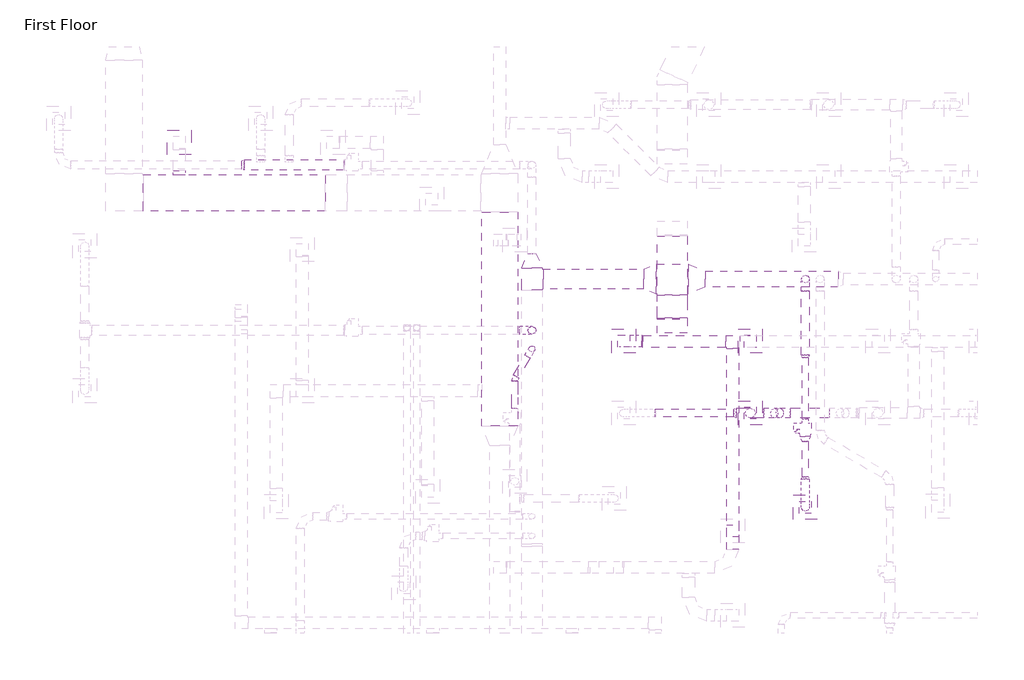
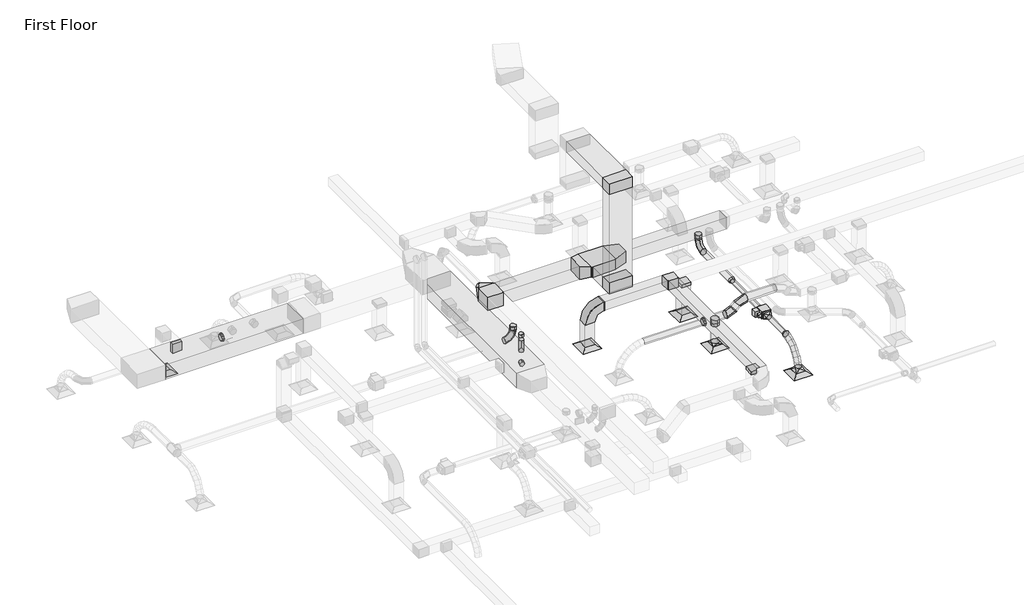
# One storey, part 12 of 61: 30 duct fittings, 26 duct segments, 5 air terminals, 1 proxy.
"""IFC4 building model written with IfcOpenShell, lengths in millimetres."""

from ifc_helpers import new_model, si_unit, point, frame, frame_2d, origin, place, context, project, spatial, polyline, circle_curve, ellipse_curve, trimmed, segment, composite_curve, outline, extrude, transform, mapped, element, save
from ifc_brep_helpers import plane_surface, cylinder_surface, advanced_brep
from components import m_exhaust_grill_er_600_x_600_face_300_x_300_connection_ff221211, m_vav_unit_single_duct_150_mm_ffdab17b, m_rectangular_elbow_mitered_standard_fe2310d5, m_rectangular_elbow_radius_1_5_w_86011e9f, m_rectangular_takeoff_standard_c00386d1, m_rectangular_takeoff_standard_ef79a8fe, m_rectangular_tee_standard_bf2a2b7f, m_rectangular_tee_standard_0196e6dc, m_rectangular_tee_standard_04ac002c, m_rectangular_transition_angle_45_degree_b56fc89d, m_rectangular_transition_angle_45_degree_8ae24dc3, m_rectangular_transition_angle_45_degree_11ff4bd1, m_rectangular_to_round_transition_angle_45_degree_c3b12eae, m_rectangular_to_round_transition_angle_45_degree_60daae35, m_rectangular_to_round_transition_angle_45_degree_5bab159d, m_rectangular_to_round_transition_angle_45_degree_52f8b7ed, m_round_elbow_1_5_d_2e586196, m_round_elbow_1_5_d_5294a869, m_round_elbow_1_5_d_6facac79, m_round_elbow_1_5_d_ef943c7d, m_round_elbow_1_5_d_36e34a82, m_round_takeoff_standard_d02f3bf7, m_round_takeoff_standard_45336e8a, m_round_takeoff_standard_37f376f6, m_round_takeoff_standard_c2403e64, m_round_transition_angle_45_degree_3fc7b733, m_round_transition_angle_45_degree_7939cf24, m_round_transition_angle_45_degree_68e10778

model = new_model("IFC4")

# Units and contexts
model_context = context("Model", 3, world=origin())
ifc_project = project(units=[si_unit("LENGTHUNIT", "METRE", prefix="MILLI")], contexts=[model_context])

# Site, building, storey
site = spatial("IfcSite", under=ifc_project)
building = spatial("IfcBuilding", under=site)
storey = spatial("IfcBuildingStorey", under=building, Name="First Floor", Elevation=0.0)

# Air terminals
placement = place(None, origin())
m_exhaust_grill_er_600_x_600_face_300_x_300_connection_shape = m_exhaust_grill_er_600_x_600_face_300_x_300_connection_ff221211(model_context)
element("IfcAirTerminal", 1, ObjectType="M_Return Register : RR-600 x 600 Face 300 x 300 Connection", at=placement, inside=storey, context=model_context, shape_type="MappedRepresentation", body=[
    mapped(m_exhaust_grill_er_600_x_600_face_300_x_300_connection_shape, transform((-33639.8506723, 21539.5631342, 2680.0), x_axis=(1.0, 0.0, 0.0), y_axis=(0.0, 1.0, 0.0), z_axis=(0.0, 0.0, 1.0))),
])
element("IfcAirTerminal", 2, ObjectType="M_Return Register : RR-600 x 600 Face 300 x 300 Connection", at=placement, inside=storey, context=model_context, shape_type="MappedRepresentation", body=[
    mapped(m_exhaust_grill_er_600_x_600_face_300_x_300_connection_shape, transform((-47834.1400676, 26481.8812417, 2680.0), x_axis=(1.0, 0.0, 0.0), y_axis=(0.0, 1.0, 0.0), z_axis=(0.0, 0.0, 1.0))),
])
element("IfcAirTerminal", 3, ObjectType="M_Return Register : RR-600 x 600 Face 300 x 300 Connection", at=placement, inside=storey, context=model_context, shape_type="MappedRepresentation", body=[
    mapped(m_exhaust_grill_er_600_x_600_face_300_x_300_connection_shape, transform((-36787.6727054, 21539.5631342, 2680.0), x_axis=(1.0, 0.0, 0.0), y_axis=(0.0, 1.0, 0.0), z_axis=(0.0, 0.0, 1.0))),
])
element("IfcAirTerminal", 4, ObjectType="M_Supply Diffuser : SD-600 x 600 Face 300 x 300 Connection", at=placement, inside=storey, context=model_context, shape_type="MappedRepresentation", body=[
    mapped(m_exhaust_grill_er_600_x_600_face_300_x_300_connection_shape, transform((-33639.8506723, 19747.3013059, 2680.0), x_axis=(1.0, 0.0, 0.0), y_axis=(0.0, 1.0, 0.0), z_axis=(0.0, 0.0, 1.0))),
])
element("IfcAirTerminal", 5, ObjectType="M_Supply Diffuser : SD-600 x 600 Face 300 x 300 Connection", at=placement, inside=storey, context=model_context, shape_type="MappedRepresentation", body=[
    mapped(m_exhaust_grill_er_600_x_600_face_300_x_300_connection_shape, transform((-32268.9643314, 17405.7329769, 2680.0), x_axis=(1.0, 0.0, 0.0), y_axis=(0.0, 1.0, 0.0), z_axis=(0.0, 0.0, 1.0))),
])

# Proxy
m_vav_unit_single_duct_150_mm_shape = m_vav_unit_single_duct_150_mm_ffdab17b(model_context)
element("IfcBuildingElementProxy", 6, Name="M_VAV Unit - Single Duct : 150 mm", ObjectType="M_VAV Unit - Single Duct : 150 mm", at=placement, inside=storey, context=model_context, shape_type="MappedRepresentation", body=[
    mapped(m_vav_unit_single_duct_150_mm_shape, transform((-32268.9643314, 19505.7329769, 3500.0), x_axis=(0.0, -1.0, 0.0), y_axis=(1.0, 0.0, 0.0), z_axis=(0.0, 0.0, 1.0))),
])

# Duct fittings
m_rectangular_elbow_mitered_standard_shape = m_rectangular_elbow_mitered_standard_fe2310d5(model_context)
element("IfcDuctFitting", 7, ObjectType="M_Rectangular Elbow - Mitered : Standard", at=placement, inside=storey, context=model_context, shape_type="MappedRepresentation", body=[
    mapped(m_rectangular_elbow_mitered_standard_shape, transform((-35582.8559727, 21911.6851869, 7719.5), x_axis=(0.0, -1.0, 0.0), y_axis=(0.0, 0.0, -1.0), z_axis=(1.0, 0.0, 0.0))),
])
element("IfcDuctFitting", 8, ObjectType="M_Rectangular Elbow - Mitered : Standard", at=placement, inside=storey, context=model_context, shape_type="MappedRepresentation", body=[
    mapped(m_rectangular_elbow_mitered_standard_shape, transform((-35582.8559727, 21911.6851869, 4259.5), x_axis=(0.0, 0.0, -1.0), y_axis=(0.0, 1.0, 0.0), z_axis=(1.0, 0.0, 0.0))),
])
m_rectangular_elbow_radius_1_5_w_shape = m_rectangular_elbow_radius_1_5_w_86011e9f(model_context)
element("IfcDuctFitting", 9, ObjectType="M_Rectangular Elbow - Radius : 1.5 W", at=placement, inside=storey, context=model_context, shape_type="MappedRepresentation", body=[
    mapped(m_rectangular_elbow_radius_1_5_w_shape, transform((-36787.6727054, 21539.5631342, 4000.0), x_axis=(0.0, 0.0, 1.0), y_axis=(1.0, 0.0, 0.0), z_axis=(0.0, 1.0, 0.0))),
])
m_rectangular_takeoff_standard_shape = m_rectangular_takeoff_standard_c00386d1(model_context)
element("IfcDuctFitting", 10, ObjectType="M_Rectangular Takeoff : Standard", at=placement, inside=storey, context=model_context, shape_type="MappedRepresentation", body=[
    mapped(m_rectangular_takeoff_standard_shape, transform((-34075.733002, 16812.4492601, 3850.0), x_axis=(0.0, 0.0, -1.0), y_axis=(-1.0, 0.0, 0.0), z_axis=(0.0, 1.0, 0.0))),
])
element("IfcDuctFitting", 11, ObjectType="M_Rectangular Takeoff : Standard", at=placement, inside=storey, context=model_context, shape_type="MappedRepresentation", body=[
    mapped(m_rectangular_takeoff_standard_shape, transform((-47834.1400676, 25678.8199771, 4000.0), x_axis=(0.0, 1.0, 0.0), y_axis=(1.0, 0.0, 0.0), z_axis=(0.0, 0.0, -1.0))),
])
m_rectangular_takeoff_standard_2_shape = m_rectangular_takeoff_standard_ef79a8fe(model_context)
element("IfcDuctFitting", 12, ObjectType="M_Rectangular Takeoff : Standard", at=placement, inside=storey, context=model_context, shape_type="MappedRepresentation", body=[
    mapped(m_rectangular_takeoff_standard_2_shape, transform((-33639.8506723, 21526.3164283, 3850.0), x_axis=(0.0, 0.012397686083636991, -0.9999231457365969), y_axis=(0.0, 0.9999231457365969, 0.012397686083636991), z_axis=(1.0, 0.0, 0.0))),
])
m_rectangular_tee_standard_shape = m_rectangular_tee_standard_bf2a2b7f(model_context)
element("IfcDuctFitting", 13, ObjectType="M_Rectangular Tee : Standard", at=placement, inside=storey, context=model_context, shape_type="MappedRepresentation", body=[
    mapped(m_rectangular_tee_standard_shape, transform((-34075.733002, 21527.5562922, 4000.0), x_axis=(1.0, 0.0, 0.0), y_axis=(0.0, 1.0, 0.0), z_axis=(0.0, 0.0, 1.0))),
])
m_rectangular_tee_standard_2_shape = m_rectangular_tee_standard_0196e6dc(model_context)
element("IfcDuctFitting", 14, ObjectType="M_Rectangular Tee : Standard", at=placement, inside=storey, context=model_context, shape_type="MappedRepresentation", body=[
    mapped(m_rectangular_tee_standard_2_shape, transform((-35582.8559727, 23080.5096581, 4259.5), x_axis=(1.0, 0.0, 0.0), y_axis=(0.0, 1.0, 0.0), z_axis=(0.0, 0.0, 1.0))),
])
m_rectangular_tee_standard_3_shape = m_rectangular_tee_standard_04ac002c(model_context)
element("IfcDuctFitting", 15, ObjectType="M_Rectangular Tee : Standard", at=placement, inside=storey, context=model_context, shape_type="MappedRepresentation", body=[
    mapped(m_rectangular_tee_standard_3_shape, transform((-39067.4195561, 23080.5096581, 4259.5), x_axis=(0.0, 1.0, 0.0), y_axis=(-1.0, 0.0, 0.0), z_axis=(0.0, 0.0, 1.0))),
])
m_rectangular_transition_angle_45_degree_shape = m_rectangular_transition_angle_45_degree_b56fc89d(model_context)
element("IfcDuctFitting", 16, ObjectType="M_Rectangular Transition - Angle : 45 Degree", at=placement, inside=storey, context=model_context, shape_type="MappedRepresentation", body=[
    mapped(m_rectangular_transition_angle_45_degree_shape, transform((-34760.3685993, 23080.5096581, 4259.5), x_axis=(-1.0, 0.0, 0.0), y_axis=(0.0, -1.0, 0.0), z_axis=(0.0, 0.0, 1.0))),
])
m_rectangular_transition_angle_45_degree_2_shape = m_rectangular_transition_angle_45_degree_8ae24dc3(model_context)
element("IfcDuctFitting", 17, ObjectType="M_Rectangular Transition - Angle : 45 Degree", at=placement, inside=storey, context=model_context, shape_type="MappedRepresentation", body=[
    mapped(m_rectangular_transition_angle_45_degree_2_shape, transform((-35982.8559727, 23080.5096581, 4259.5), x_axis=(-1.0, 0.0, 0.0), y_axis=(0.0, -1.0, 0.0), z_axis=(0.0, 0.0, 1.0))),
])
m_rectangular_transition_angle_45_degree_3_shape = m_rectangular_transition_angle_45_degree_11ff4bd1(model_context)
element("IfcDuctFitting", 18, ObjectType="M_Rectangular Transition - Angle : 45 Degree", at=placement, inside=storey, context=model_context, shape_type="MappedRepresentation", body=[
    mapped(m_rectangular_transition_angle_45_degree_3_shape, transform((-36337.6727054, 21539.5631342, 4000.0), x_axis=(1.0, 0.0, 0.0), y_axis=(0.0, 1.0, 0.0), z_axis=(0.0, 0.0, 1.0))),
])
m_rectangular_to_round_transition_angle_45_degree_shape = m_rectangular_to_round_transition_angle_45_degree_c3b12eae(model_context)
element("IfcDuctFitting", 19, ObjectType="M_Rectangular to Round Transition - Angle : 45 Degree", at=placement, inside=storey, context=model_context, shape_type="MappedRepresentation", body=[
    mapped(m_rectangular_to_round_transition_angle_45_degree_shape, transform((-32268.9643314, 19162.9329769, 3619.05), x_axis=(0.0, -1.0, 0.0), y_axis=(1.0, 0.0, 0.0), z_axis=(0.0, 0.0, 1.0))),
])
m_rectangular_to_round_transition_angle_45_degree_2_shape = m_rectangular_to_round_transition_angle_45_degree_60daae35(model_context)
element("IfcDuctFitting", 20, ObjectType="M_Rectangular to Round Transition - Angle : 45 Degree", at=placement, inside=storey, context=model_context, shape_type="MappedRepresentation", body=[
    mapped(m_rectangular_to_round_transition_angle_45_degree_2_shape, transform((-32268.9643314, 17405.7329769, 2781.6), x_axis=(0.0, 0.0, 1.0), y_axis=(1.0, 0.0, 0.0), z_axis=(0.0, 1.0, 0.0))),
])
m_rectangular_to_round_transition_angle_45_degree_3_shape = m_rectangular_to_round_transition_angle_45_degree_5bab159d(model_context)
element("IfcDuctFitting", 21, ObjectType="M_Rectangular to Round Transition - Angle : 45 Degree", at=placement, inside=storey, context=model_context, shape_type="MappedRepresentation", body=[
    mapped(m_rectangular_to_round_transition_angle_45_degree_3_shape, transform((-33639.8506723, 19747.3013059, 2781.6), x_axis=(0.0, 0.0, 1.0), y_axis=(0.0, 1.0, 0.0), z_axis=(-1.0, 0.0, 0.0))),
])
m_rectangular_to_round_transition_angle_45_degree_4_shape = m_rectangular_to_round_transition_angle_45_degree_52f8b7ed(model_context)
element("IfcDuctFitting", 22, ObjectType="M_Rectangular to Round Transition - Angle : 45 Degree", at=placement, inside=storey, context=model_context, shape_type="MappedRepresentation", body=[
    mapped(m_rectangular_to_round_transition_angle_45_degree_4_shape, transform((-39067.4195561, 23355.5096581, 4259.5), x_axis=(0.0, 1.0, 0.0), y_axis=(-1.0, 0.0, 0.0), z_axis=(0.0, 0.0, 1.0))),
])
m_round_elbow_1_5_d_shape = m_round_elbow_1_5_d_2e586196(model_context)
element("IfcDuctFitting", 23, ObjectType="M_Round Elbow : 1.5 D", at=placement, inside=storey, context=model_context, shape_type="MappedRepresentation", body=[
    mapped(m_round_elbow_1_5_d_shape, transform((-39067.4195561, 21347.2850588, 3609.5), x_axis=(0.0, 0.0, -1.0), y_axis=(-0.5000000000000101, -0.8660254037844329, 0.0), z_axis=(-0.8660254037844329, 0.5000000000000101, 0.0))),
])
m_round_elbow_1_5_d_2_shape = m_round_elbow_1_5_d_5294a869(model_context)
element("IfcDuctFitting", 24, ObjectType="M_Round Elbow : 1.5 D", at=placement, inside=storey, context=model_context, shape_type="MappedRepresentation", body=[
    mapped(m_round_elbow_1_5_d_2_shape, transform((-39494.3797098, 20607.7683799, 3609.5), x_axis=(-0.5000000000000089, -0.8660254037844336, 0.0), y_axis=(0.8660254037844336, -0.5000000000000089, 0.0), z_axis=(0.0, 0.0, 1.0))),
])
m_round_elbow_1_5_d_3_shape = m_round_elbow_1_5_d_6facac79(model_context)
element("IfcDuctFitting", 25, ObjectType="M_Round Elbow : 1.5 D", at=placement, inside=storey, context=model_context, shape_type="MappedRepresentation", body=[
    mapped(m_round_elbow_1_5_d_3_shape, transform((-32798.1711139, 19747.3013059, 3997.6533906), x_axis=(-1.0, 0.0, 0.0), y_axis=(0.0, 0.0, -1.0), z_axis=(0.0, -1.0, 0.0))),
])
element("IfcDuctFitting", 26, ObjectType="M_Round Elbow : 1.5 D", at=placement, inside=storey, context=model_context, shape_type="MappedRepresentation", body=[
    mapped(m_round_elbow_1_5_d_3_shape, transform((-33151.7245045, 19747.3013059, 3644.1), x_axis=(-0.7071067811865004, 0.0, -0.7071067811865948), y_axis=(-0.7071067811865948, 0.0, 0.7071067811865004), z_axis=(0.0, 1.0, 0.0))),
])
m_round_elbow_1_5_d_4_shape = m_round_elbow_1_5_d_ef943c7d(model_context)
element("IfcDuctFitting", 27, ObjectType="M_Round Elbow : 1.5 D", at=placement, inside=storey, context=model_context, shape_type="MappedRepresentation", body=[
    mapped(m_round_elbow_1_5_d_4_shape, transform((-32268.1143314, 23080.5096581, 3609.5003064), x_axis=(0.0, 0.0, -1.0), y_axis=(0.0, -1.0, 0.0), z_axis=(-1.0, 0.0, 0.0))),
])
m_round_elbow_1_5_d_5_shape = m_round_elbow_1_5_d_36e34a82(model_context)
element("IfcDuctFitting", 28, ObjectType="M_Round Elbow : 1.5 D", at=placement, inside=storey, context=model_context, shape_type="MappedRepresentation", body=[
    mapped(m_round_elbow_1_5_d_5_shape, transform((-39066.9981017, 21807.7683799, 3609.5), x_axis=(1.0, 0.0, 0.0), y_axis=(0.0, 0.0, 1.0), z_axis=(0.0, -1.0, 0.0))),
])
m_round_takeoff_standard_shape = m_round_takeoff_standard_d02f3bf7(model_context)
element("IfcDuctFitting", 29, ObjectType="M_Round Takeoff : Standard", at=placement, inside=storey, context=model_context, shape_type="MappedRepresentation", body=[
    mapped(m_round_takeoff_standard_shape, transform((-39067.4195561, 21347.2850588, 4034.5), x_axis=(0.0, 0.0, -1.0), y_axis=(1.0, 0.0, 0.0), z_axis=(0.0, -1.0, 0.0))),
])
m_round_takeoff_standard_2_shape = m_round_takeoff_standard_45336e8a(model_context)
element("IfcDuctFitting", 30, ObjectType="M_Round Takeoff : Standard", at=placement, inside=storey, context=model_context, shape_type="MappedRepresentation", body=[
    mapped(m_round_takeoff_standard_2_shape, transform((-32268.1143314, 23080.5096581, 4059.5), x_axis=(0.0, 0.0, -1.0), y_axis=(1.0, 0.0, 0.0), z_axis=(0.0, -1.0, 0.0))),
])
m_round_takeoff_standard_3_shape = m_round_takeoff_standard_37f376f6(model_context)
element("IfcDuctFitting", 31, ObjectType="M_Round Takeoff : Standard", at=placement, inside=storey, context=model_context, shape_type="MappedRepresentation", body=[
    mapped(m_round_takeoff_standard_3_shape, transform((-33639.8506723, 19747.3013059, 3519.1), x_axis=(0.0, 0.0, -1.0), y_axis=(0.0, -1.0, 0.0), z_axis=(-1.0, 0.0, 0.0))),
])
m_round_takeoff_standard_4_shape = m_round_takeoff_standard_c2403e64(model_context)
element("IfcDuctFitting", 32, ObjectType="M_Round Takeoff : Standard", at=placement, inside=storey, context=model_context, shape_type="MappedRepresentation", body=[
    mapped(m_round_takeoff_standard_4_shape, transform((-39067.273668, 21807.7683799, 4034.5), x_axis=(0.0006483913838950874, 0.0, -0.9999997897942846), y_axis=(0.0, 1.0, 0.0), z_axis=(0.9999997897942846, 0.0, 0.000648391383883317))),
])
m_round_transition_angle_45_degree_shape = m_round_transition_angle_45_degree_3fc7b733(model_context)
element("IfcDuctFitting", 33, ObjectType="M_Round Transition - Angle : 45 Degree", at=placement, inside=storey, context=model_context, shape_type="MappedRepresentation", body=[
    mapped(m_round_transition_angle_45_degree_shape, transform((-32268.9643314, 18162.9329769, 3609.5), x_axis=(0.0, -0.9999410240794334, -0.01086040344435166), y_axis=(1.0000000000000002, 0.0, 0.0), z_axis=(0.0, -0.01086040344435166, 0.9999410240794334))),
])
m_round_transition_angle_45_degree_2_shape = m_round_transition_angle_45_degree_7939cf24(model_context)
element("IfcDuctFitting", 34, ObjectType="M_Round Transition - Angle : 45 Degree", at=placement, inside=storey, context=model_context, shape_type="MappedRepresentation", body=[
    mapped(m_round_transition_angle_45_degree_2_shape, transform((-46221.7384067, 25922.5121835, 3644.1), x_axis=(-1.0, 0.0, 0.0), y_axis=(0.0, -1.0, 0.0), z_axis=(0.0, 0.0, 1.0))),
])
element("IfcDuctFitting", 35, ObjectType="M_Round Transition - Angle : 45 Degree", at=placement, inside=storey, context=model_context, shape_type="MappedRepresentation", body=[
    mapped(m_round_transition_angle_45_degree_2_shape, transform((-33994.4400538, 19747.3013059, 3644.1), x_axis=(-1.0, 0.0, 0.0), y_axis=(0.0, -1.0, 0.0), z_axis=(0.0, 0.0, 1.0))),
])
m_round_transition_angle_45_degree_3_shape = m_round_transition_angle_45_degree_68e10778(model_context)
element("IfcDuctFitting", 36, ObjectType="M_Round Transition - Angle : 45 Degree", at=placement, inside=storey, context=model_context, shape_type="MappedRepresentation", body=[
    mapped(m_round_transition_angle_45_degree_3_shape, transform((-32268.1143314, 21127.3329769, 3609.5), x_axis=(0.0, 0.9999999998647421, -1.644736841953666e-05), y_axis=(-1.0, 0.0, 0.0), z_axis=(0.0, 1.644736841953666e-05, 0.9999999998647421))),
])

# Duct segments
element("IfcDuctSegment", 37, ObjectType="Flex - Round", at=placement, inside=storey, context=model_context, shape_type="AdvancedBrep", body=[
    advanced_brep(
    [(-32168.9643314, 18102.5811974, 3608.8445167), (-32268.9643314, 18118.4271261, 3510.1079655), (-32368.9643314, 18102.5811974, 3608.8445167), (-32268.9643314, 18086.7352686, 3707.5810679), (-32168.9643314, 17959.8315326, 3585.9350572), (-32268.9643314, 17988.1271349, 3489.1965163), (-32368.9643314, 17959.8315326, 3585.9350572), (-32268.9643314, 17931.5359303, 3682.6735982), (-32168.9643314, 17405.7329769, 2902.3106781), (-32268.9643314, 17306.8168669, 2916.9941102), (-32368.9643314, 17405.7329769, 2902.3106781), (-32268.9643314, 17504.649087, 2887.627246), (-32168.9643314, 17819.7794979, 3525.0664323), (-32268.9643314, 17868.9763607, 3437.4118792), (-32368.9643314, 17819.7794979, 3525.0664323), (-32268.9643314, 17770.5826352, 3612.7209854), (-32168.9643314, 17689.4464991, 3433.409352), (-32268.9643314, 17754.3464519, 3356.798045), (-32368.9643314, 17689.4464991, 3433.409352), (-32268.9643314, 17624.5465462, 3510.0206589), (-32168.9643314, 17575.8539418, 3318.1345263), (-32268.9643314, 17653.399715, 3254.3563202), (-32368.9643314, 17575.8539418, 3318.1345263), (-32268.9643314, 17498.3081685, 3381.9127324), (-32168.9643314, 17486.0232318, 3186.4126654), (-32268.9643314, 17574.3481133, 3138.4402365), (-32368.9643314, 17486.0232318, 3186.4126654), (-32268.9643314, 17397.6983503, 3234.3850942), (-32168.9643314, 17426.9757749, 3045.4144793), (-32268.9643314, 17524.0526174, 3018.340675), (-32368.9643314, 17426.9757749, 3045.4144793), (-32268.9643314, 17329.8989324, 3072.4882836)],
    [
        (0, 1, circle_curve(frame((-32268.9643314, 18102.5811974, 3608.8445167), z_axis=(0.0, 0.9873655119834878, 0.1584592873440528), x_axis=(1.0, 0.0, 0.0)), 100.0)),
        (1, 2, circle_curve(frame((-32268.9643314, 18102.5811974, 3608.8445167), z_axis=(0.0, 0.9873655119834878, 0.1584592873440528), x_axis=(1.0, 0.0, 0.0)), 100.0)),
        (2, 3, circle_curve(frame((-32268.9643314, 18102.5811974, 3608.8445167), z_axis=(0.0, 0.9873655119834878, 0.1584592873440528), x_axis=(1.0, 0.0, 0.0)), 100.0)),
        (3, 0, circle_curve(frame((-32268.9643314, 18102.5811974, 3608.8445167), z_axis=(0.0, 0.9873655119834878, 0.1584592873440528), x_axis=(1.0, 0.0, 0.0)), 100.0)),
        (0, 4),
        (4, 5, ellipse_curve(frame((-32268.9643314, 17959.8315326, 3585.9350572), z_axis=(0.0, 0.9597858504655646, 0.2807331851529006), x_axis=(0.0, 0.28073318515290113, -0.9597858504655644)), 100.7917974, 100.0)),
        (5, 1),
        (5, 6, ellipse_curve(frame((-32268.9643314, 17959.8315326, 3585.9350572), z_axis=(0.0, 0.9597858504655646, 0.2807331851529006), x_axis=(0.0, 0.28073318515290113, -0.9597858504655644)), 100.7917974, 100.0)),
        (6, 2),
        (6, 7, ellipse_curve(frame((-32268.9643314, 17959.8315326, 3585.9350572), z_axis=(0.0, 0.9597858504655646, 0.2807331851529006), x_axis=(0.0, 0.28073318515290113, -0.9597858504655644)), 100.7917974, 100.0)),
        (7, 3),
        (7, 4, ellipse_curve(frame((-32268.9643314, 17959.8315326, 3585.9350572), z_axis=(0.0, 0.9597858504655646, 0.2807331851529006), x_axis=(0.0, 0.28073318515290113, -0.9597858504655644)), 100.7917974, 100.0)),
        (8, 9, circle_curve(frame((-32268.9643314, 17405.7329769, 2902.3106781), z_axis=(0.0, -0.14683432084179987, -0.9891611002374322), x_axis=(1.0, 0.0, 0.0)), 100.0)),
        (9, 10, circle_curve(frame((-32268.9643314, 17405.7329769, 2902.3106781), z_axis=(0.0, -0.14683432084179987, -0.9891611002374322), x_axis=(1.0, 0.0, 0.0)), 100.0)),
        (10, 11, circle_curve(frame((-32268.9643314, 17405.7329769, 2902.3106781), z_axis=(0.0, -0.14683432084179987, -0.9891611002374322), x_axis=(1.0, 0.0, 0.0)), 100.0)),
        (11, 8, circle_curve(frame((-32268.9643314, 17405.7329769, 2902.3106781), z_axis=(0.0, -0.14683432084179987, -0.9891611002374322), x_axis=(1.0, 0.0, 0.0)), 100.0)),
        (4, 12),
        (12, 13, ellipse_curve(frame((-32268.9643314, 17819.7794979, 3525.0664323), z_axis=(0.0, 0.8720377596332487, 0.4894386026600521), x_axis=(0.0, 0.48943860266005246, -0.8720377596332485)), 100.5169239, 100.0)),
        (13, 5),
        (13, 14, ellipse_curve(frame((-32268.9643314, 17819.7794979, 3525.0664323), z_axis=(0.0, 0.8720377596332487, 0.4894386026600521), x_axis=(0.0, 0.48943860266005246, -0.8720377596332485)), 100.5169239, 100.0)),
        (14, 6),
        (14, 15, ellipse_curve(frame((-32268.9643314, 17819.7794979, 3525.0664323), z_axis=(0.0, 0.8720377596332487, 0.4894386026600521), x_axis=(0.0, 0.48943860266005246, -0.8720377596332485)), 100.5169239, 100.0)),
        (15, 7),
        (15, 12, ellipse_curve(frame((-32268.9643314, 17819.7794979, 3525.0664323), z_axis=(0.0, 0.8720377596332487, 0.4894386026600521), x_axis=(0.0, 0.48943860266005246, -0.8720377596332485)), 100.5169239, 100.0)),
        (12, 16),
        (16, 17, ellipse_curve(frame((-32268.9643314, 17689.4464991, 3433.409352), z_axis=(0.0, 0.7630178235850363, 0.6463774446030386), x_axis=(0.0, 0.6463774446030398, -0.7630178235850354)), 100.4056584, 100.0)),
        (17, 13),
        (17, 18, ellipse_curve(frame((-32268.9643314, 17689.4464991, 3433.409352), z_axis=(0.0, 0.7630178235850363, 0.6463774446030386), x_axis=(0.0, 0.6463774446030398, -0.7630178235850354)), 100.4056584, 100.0)),
        (18, 14),
        (18, 19, ellipse_curve(frame((-32268.9643314, 17689.4464991, 3433.409352), z_axis=(0.0, 0.7630178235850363, 0.6463774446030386), x_axis=(0.0, 0.6463774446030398, -0.7630178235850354)), 100.4056584, 100.0)),
        (19, 15),
        (19, 16, ellipse_curve(frame((-32268.9643314, 17689.4464991, 3433.409352), z_axis=(0.0, 0.7630178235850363, 0.6463774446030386), x_axis=(0.0, 0.6463774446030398, -0.7630178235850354)), 100.4056584, 100.0)),
        (16, 20),
        (20, 21, ellipse_curve(frame((-32268.9643314, 17575.8539418, 3318.1345263), z_axis=(0.0, 0.635214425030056, 0.7723358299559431), x_axis=(0.0, 0.7723358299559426, -0.6352144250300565)), 100.4042157, 100.0)),
        (21, 17),
        (21, 22, ellipse_curve(frame((-32268.9643314, 17575.8539418, 3318.1345263), z_axis=(0.0, 0.635214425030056, 0.7723358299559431), x_axis=(0.0, 0.7723358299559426, -0.6352144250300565)), 100.4042157, 100.0)),
        (22, 18),
        (22, 23, ellipse_curve(frame((-32268.9643314, 17575.8539418, 3318.1345263), z_axis=(0.0, 0.635214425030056, 0.7723358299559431), x_axis=(0.0, 0.7723358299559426, -0.6352144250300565)), 100.4042157, 100.0)),
        (23, 19),
        (23, 20, ellipse_curve(frame((-32268.9643314, 17575.8539418, 3318.1345263), z_axis=(0.0, 0.635214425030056, 0.7723358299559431), x_axis=(0.0, 0.7723358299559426, -0.6352144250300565)), 100.4042157, 100.0)),
        (20, 24),
        (24, 25, ellipse_curve(frame((-32268.9643314, 17486.0232318, 3186.4126654), z_axis=(0.0, 0.47728116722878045, 0.8787506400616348), x_axis=(0.0, 0.878750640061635, -0.4772811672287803)), 100.511883, 100.0)),
        (25, 21),
        (25, 26, ellipse_curve(frame((-32268.9643314, 17486.0232318, 3186.4126654), z_axis=(0.0, 0.47728116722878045, 0.8787506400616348), x_axis=(0.0, 0.878750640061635, -0.4772811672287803)), 100.511883, 100.0)),
        (26, 22),
        (26, 27, ellipse_curve(frame((-32268.9643314, 17486.0232318, 3186.4126654), z_axis=(0.0, 0.47728116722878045, 0.8787506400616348), x_axis=(0.0, 0.878750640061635, -0.4772811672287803)), 100.511883, 100.0)),
        (27, 23),
        (27, 24, ellipse_curve(frame((-32268.9643314, 17486.0232318, 3186.4126654), z_axis=(0.0, 0.47728116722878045, 0.8787506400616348), x_axis=(0.0, 0.878750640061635, -0.4772811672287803)), 100.511883, 100.0)),
        (24, 28),
        (28, 29, ellipse_curve(frame((-32268.9643314, 17426.9757749, 3045.4144793), z_axis=(0.0, 0.2686387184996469, 0.9632410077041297), x_axis=(0.0, 0.9632410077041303, -0.268638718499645)), 100.7814677, 100.0)),
        (29, 25),
        (29, 30, ellipse_curve(frame((-32268.9643314, 17426.9757749, 3045.4144793), z_axis=(0.0, 0.2686387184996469, 0.9632410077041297), x_axis=(0.0, 0.9632410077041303, -0.268638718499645)), 100.7814677, 100.0)),
        (30, 26),
        (30, 31, ellipse_curve(frame((-32268.9643314, 17426.9757749, 3045.4144793), z_axis=(0.0, 0.2686387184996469, 0.9632410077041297), x_axis=(0.0, 0.9632410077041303, -0.268638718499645)), 100.7814677, 100.0)),
        (31, 27),
        (31, 28, ellipse_curve(frame((-32268.9643314, 17426.9757749, 3045.4144793), z_axis=(0.0, 0.2686387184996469, 0.9632410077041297), x_axis=(0.0, 0.9632410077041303, -0.268638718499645)), 100.7814677, 100.0)),
        (28, 8),
        (11, 29),
        (10, 30),
        (9, 31),
    ],
    [
        plane_surface(frame((-32268.9643314, 18118.4271261, 3510.1079655), z_axis=(0.0, 0.9873655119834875, 0.15845928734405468), x_axis=(1.0, 0.0, 0.0))),
        cylinder_surface(frame((-32268.9643314, 18102.5811974, 3608.8445167), z_axis=(0.0, 0.9873655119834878, 0.1584592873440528), x_axis=(1.0, 0.0, 0.0)), 100.0),
        plane_surface(frame((-32268.9643314, 17504.649087, 2887.627246), z_axis=(0.0, -0.14683432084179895, -0.9891611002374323), x_axis=(1.0, 0.0, 0.0))),
        cylinder_surface(frame((-32268.9643314, 17959.8315326, 3585.9350572), z_axis=(0.0, 0.9171264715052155, 0.3985963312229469), x_axis=(1.0, 0.0, 0.0)), 100.0),
        cylinder_surface(frame((-32268.9643314, 17819.7794979, 3525.0664323), z_axis=(0.0, 0.8179798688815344, 0.5752468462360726), x_axis=(1.0, 0.0, 0.0)), 100.0),
        cylinder_surface(frame((-32268.9643314, 17689.4464991, 3433.409352), z_axis=(0.0, 0.7018902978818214, 0.7122850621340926), x_axis=(1.0, 0.0, 0.0)), 100.0),
        cylinder_surface(frame((-32268.9643314, 17575.8539418, 3318.1345263), z_axis=(0.0, 0.5634239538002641, 0.8261679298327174), x_axis=(1.0, 0.0, 0.0)), 100.0),
        cylinder_surface(frame((-32268.9643314, 17486.0232318, 3186.4126654), z_axis=(0.0, 0.3862770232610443, 0.9223828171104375), x_axis=(1.0, 0.0, 0.0)), 100.0),
        cylinder_surface(frame((-32268.9643314, 17426.9757749, 3045.4144793), z_axis=(0.0, 0.14683432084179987, 0.9891611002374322), x_axis=(1.0, 0.0, 0.0)), 100.0),
    ],
    [
        (0, [[1, 2, 3, 4]]),
        (1, [[-1, 5, 6, 7]]),
        (1, [[-2, -7, 8, 9]]),
        (1, [[-3, -9, 10, 11]]),
        (1, [[-4, -11, 12, -5]]),
        (2, [[13, 14, 15, 16]]),
        (3, [[-6, 17, 18, 19]]),
        (3, [[-8, -19, 20, 21]]),
        (3, [[-10, -21, 22, 23]]),
        (3, [[-12, -23, 24, -17]]),
        (4, [[-18, 25, 26, 27]]),
        (4, [[-20, -27, 28, 29]]),
        (4, [[-22, -29, 30, 31]]),
        (4, [[-24, -31, 32, -25]]),
        (5, [[-26, 33, 34, 35]]),
        (5, [[-28, -35, 36, 37]]),
        (5, [[-30, -37, 38, 39]]),
        (5, [[-32, -39, 40, -33]]),
        (6, [[-34, 41, 42, 43]]),
        (6, [[-36, -43, 44, 45]]),
        (6, [[-38, -45, 46, 47]]),
        (6, [[-40, -47, 48, -41]]),
        (7, [[-42, 49, 50, 51]]),
        (7, [[-44, -51, 52, 53]]),
        (7, [[-46, -53, 54, 55]]),
        (7, [[-48, -55, 56, -49]]),
        (8, [[-50, 57, -16, 58]]),
        (8, [[-52, -58, -15, 59]]),
        (8, [[-54, -59, -14, 60]]),
        (8, [[-56, -60, -13, -57]]),
    ],
),
])
element("IfcDuctSegment", 38, ObjectType="Mitered Elbows / Taps", at=placement, inside=storey, context=model_context, shape_type="SweptSolid", body=[
    extrude(outline(polyline([(-35957.8559727, 24146.9475748), (-35207.8559727, 24146.9475748), (-35207.8559727, 22111.6851869), (-35957.8559727, 22111.6851869), (-35957.8559727, 24146.9475748)])), frame((0.0, 0.0, 7544.5), z_axis=(0.0, 0.0, 1.0), x_axis=(1.0, 0.0, 0.0)), (0.0, 0.0, 1.0), 350.0),
])
element("IfcDuctSegment", 39, ObjectType="Mitered Elbows / Taps", at=placement, inside=storey, context=model_context, shape_type="SweptSolid", body=[
    extrude(outline(polyline([(-35957.8559727, 21736.6851869), (-35957.8559727, 22086.6851869), (-35207.8559727, 22086.6851869), (-35207.8559727, 21736.6851869), (-35957.8559727, 21736.6851869)])), frame((0.0, 0.0, 4459.5), z_axis=(0.0, 0.0, 1.0), x_axis=(1.0, 0.0, 0.0)), (0.0, 0.0, 1.0), 3060.0),
])
element("IfcDuctSegment", 40, ObjectType="Mitered Elbows / Taps", at=placement, inside=storey, context=model_context, shape_type="SweptSolid", body=[
    extrude(outline(polyline([(-35207.8559727, 22111.6851869), (-35957.8559727, 22111.6851869), (-35957.8559727, 22680.5096581), (-35207.8559727, 22680.5096581), (-35207.8559727, 22111.6851869)])), frame((0.0, 0.0, 4084.5), z_axis=(0.0, 0.0, 1.0), x_axis=(1.0, 0.0, 0.0)), (0.0, 0.0, 1.0), 350.0),
])
element("IfcDuctSegment", 41, ObjectType="Mitered Elbows / Taps", at=placement, inside=storey, context=model_context, shape_type="SweptSolid", body=[
    extrude(outline(polyline([(-36284.632668, 23330.5096581), (-36284.632668, 22830.5096581), (-38792.4195561, 22830.5096581), (-38792.4195561, 23330.5096581), (-36284.632668, 23330.5096581)])), frame((0.0, 0.0, 4034.5), z_axis=(0.0, 0.0, 1.0), x_axis=(1.0, 0.0, 0.0)), (0.0, 0.0, 1.0), 450.0),
])
element("IfcDuctSegment", 42, ObjectType="Mitered Elbows / Taps", at=placement, inside=storey, context=model_context, shape_type="SweptSolid", body=[
    extrude(outline(polyline([(-40317.4195561, 24753.8199771), (-39417.4195561, 24753.8199771), (-39417.4195561, 19428.8199771), (-40317.4195561, 19428.8199771), (-40317.4195561, 24753.8199771)])), frame((0.0, 0.0, 3750.0), z_axis=(0.0, 0.0, 1.0), x_axis=(1.0, 0.0, 0.0)), (0.0, 0.0, 1.0), 500.0),
])
element("IfcDuctSegment", 43, ObjectType="Mitered Elbows / Tees", at=placement, inside=storey, context=model_context, shape_type="SweptSolid", body=[
    extrude(outline(polyline([(0.0, -900.0), (0.0, 0.0), (4523.1322709, 0.0), (4523.1322709, -900.0), (0.0, -900.0)])), frame((-44212.5521176, 24778.8199771, 3749.9984493), z_axis=(2.4646645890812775e-06, 0.0, 0.9999999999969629), x_axis=(-0.9999999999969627, 0.0, 2.464664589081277e-06)), (0.0, 0.0, 1.0), 500.0),
])
element("IfcDuctSegment", 44, ObjectType="Radius Elbows / Taps", at=placement, inside=storey, context=model_context, shape_type="SweptSolid", body=[
    extrude(outline(polyline([(-31448.8009153, 23280.5096581), (-31448.8009153, 22880.5096581), (-34760.3685993, 22880.5096581), (-34760.3685993, 23280.5096581), (-31448.8009153, 23280.5096581)])), frame((0.0, 0.0, 4059.5), z_axis=(0.0, 0.0, 1.0), x_axis=(1.0, 0.0, 0.0)), (0.0, 0.0, 1.0), 400.0),
])
element("IfcDuctSegment", 45, ObjectType="Radius Elbows / Taps", at=placement, inside=storey, context=model_context, shape_type="SweptSolid", body=[
    extrude(outline(polyline([(-150.0, 62.1320343), (-150.0, 362.1320343), (150.0, 362.1320343), (150.0, 62.1320343), (-150.0, 62.1320343)])), frame((-33639.8506723, 21327.4474031, 2778.9700536), z_axis=(0.0, -0.012397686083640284, 0.9999231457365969), x_axis=(1.0, 0.0, 0.0)), (0.0, 0.0, 1.0), 966.6223216),
])
element("IfcDuctSegment", 46, ObjectType="Radius Elbows / Taps", at=placement, inside=storey, context=model_context, shape_type="SweptSolid", body=[
    extrude(outline(polyline([(-36637.6727054, 21689.5631342), (-36637.6727054, 21389.5631342), (-36937.6727054, 21389.5631342), (-36937.6727054, 21689.5631342), (-36637.6727054, 21689.5631342)])), frame((0.0, 0.0, 2781.6), z_axis=(0.0, 0.0, 1.0), x_axis=(1.0, 0.0, 0.0)), (0.0, 0.0, 1.0), 768.4),
])
element("IfcDuctSegment", 47, ObjectType="Radius Elbows / Tees", at=placement, inside=storey, context=model_context, shape_type="SweptSolid", body=[
    extrude(outline(polyline([(-36312.2727054, 21377.5562922), (-36312.2727054, 21677.5562922), (-34250.733002, 21677.5562922), (-34250.733002, 21377.5562922), (-36312.2727054, 21377.5562922)])), frame((0.0, 0.0, 3850.0), z_axis=(0.0, 0.0, 1.0), x_axis=(1.0, 0.0, 0.0)), (0.0, 0.0, 1.0), 300.0),
])
element("IfcDuctSegment", 48, ObjectType="Radius Elbows / Tees", at=placement, inside=storey, context=model_context, shape_type="SweptSolid", body=[
    extrude(outline(polyline([(-34225.733002, 21352.5562922), (-33925.733002, 21352.5562922), (-33925.733002, 16355.4855953), (-34225.733002, 16355.4855953), (-34225.733002, 21352.5562922)])), frame((0.0, 0.0, 3850.0), z_axis=(0.0, 0.0, 1.0), x_axis=(1.0, 0.0, 0.0)), (0.0, 0.0, 1.0), 300.0),
])
element("IfcDuctSegment", 49, ObjectType="Taps", at=placement, inside=storey, context=model_context, shape_type="SweptSolid", body=[
    extrude(outline(composite_curve([segment(trimmed(circle_curve(frame_2d((0.0, -75.0)), 75.0), [point((-75.0, -75.0))], [point((0.0, 0.0))], False, "CARTESIAN"), True, "CONTINUOUS"), segment(trimmed(circle_curve(frame_2d((0.0, -75.0)), 75.0), [point((0.0, 0.0))], [point((75.0, -75.0))], False, "CARTESIAN"), True, "CONTINUOUS"), segment(trimmed(circle_curve(frame_2d((0.0, -75.0)), 75.0), [point((75.0, -75.0))], [point((0.0, -150.0))], False, "CARTESIAN"), True, "CONTINUOUS"), segment(trimmed(circle_curve(frame_2d((0.0, -75.0)), 75.0), [point((0.0, -150.0))], [point((-75.0, -75.0))], False, "CARTESIAN"), True, "CONTINUOUS")], self_intersect=False)), frame((-32268.9643314, 18163.7475072, 3534.5044232), z_axis=(0.0, 0.9999410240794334, 0.010860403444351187), x_axis=(1.0, 0.0, 0.0)), (0.0, 0.0, 1.0), 879.3411818),
])
element("IfcDuctSegment", 50, ObjectType="Taps", at=placement, inside=storey, context=model_context, shape_type="SweptSolid", body=[
    extrude(outline(composite_curve([segment(trimmed(circle_curve(frame_2d((25922.5121835, 3644.1)), 125.0), [point((26047.5121835, 3644.1))], [point((25922.5121835, 3519.1))], False, "CARTESIAN"), True, "CONTINUOUS"), segment(trimmed(circle_curve(frame_2d((25922.5121835, 3644.1)), 125.0), [point((25922.5121835, 3519.1))], [point((25797.5121835, 3644.1))], False, "CARTESIAN"), True, "CONTINUOUS"), segment(trimmed(circle_curve(frame_2d((25922.5121835, 3644.1)), 125.0), [point((25797.5121835, 3644.1))], [point((25922.5121835, 3769.1))], False, "CARTESIAN"), True, "CONTINUOUS"), segment(trimmed(circle_curve(frame_2d((25922.5121835, 3644.1)), 125.0), [point((25922.5121835, 3769.1))], [point((26047.5121835, 3644.1))], False, "CARTESIAN"), True, "CONTINUOUS")], self_intersect=False)), frame((-46221.7384067, 0.0, 0.0), z_axis=(1.0, 0.0, 0.0), x_axis=(0.0, 1.0, 0.0)), (0.0, 0.0, 1.0), 2469.82233),
])
element("IfcDuctSegment", 51, ObjectType="Taps", at=placement, inside=storey, context=model_context, shape_type="SweptSolid", body=[
    extrude(outline(composite_curve([segment(trimmed(circle_curve(frame_2d((19747.3013059, 3644.1)), 100.0), [point((19847.3013059, 3644.1))], [point((19747.3013059, 3544.1))], False, "CARTESIAN"), True, "CONTINUOUS"), segment(trimmed(circle_curve(frame_2d((19747.3013059, 3644.1)), 100.0), [point((19747.3013059, 3544.1))], [point((19647.3013059, 3644.1))], False, "CARTESIAN"), True, "CONTINUOUS"), segment(trimmed(circle_curve(frame_2d((19747.3013059, 3644.1)), 100.0), [point((19647.3013059, 3644.1))], [point((19747.3013059, 3744.1))], False, "CARTESIAN"), True, "CONTINUOUS"), segment(trimmed(circle_curve(frame_2d((19747.3013059, 3644.1)), 100.0), [point((19747.3013059, 3744.1))], [point((19847.3013059, 3644.1))], False, "CARTESIAN"), True, "CONTINUOUS")], self_intersect=False)), frame((-35997.5612377, 0.0, 0.0), z_axis=(1.0, 0.0, 0.0), x_axis=(0.0, 1.0, 0.0)), (0.0, 0.0, 1.0), 1942.7658448),
])
element("IfcDuctSegment", 52, ObjectType="Taps", at=placement, inside=storey, context=model_context, shape_type="SweptSolid", body=[
    extrude(outline(composite_curve([segment(trimmed(circle_curve(frame_2d((-33639.8506723, 19747.3013059)), 125.0), [point((-33639.8506723, 19622.3013059))], [point((-33764.8506723, 19747.3013059))], False, "CARTESIAN"), True, "CONTINUOUS"), segment(trimmed(circle_curve(frame_2d((-33639.8506723, 19747.3013059)), 125.0), [point((-33764.8506723, 19747.3013059))], [point((-33639.8506723, 19872.3013059))], False, "CARTESIAN"), True, "CONTINUOUS"), segment(trimmed(circle_curve(frame_2d((-33639.8506723, 19747.3013059)), 125.0), [point((-33639.8506723, 19872.3013059))], [point((-33514.8506723, 19747.3013059))], False, "CARTESIAN"), True, "CONTINUOUS"), segment(trimmed(circle_curve(frame_2d((-33639.8506723, 19747.3013059)), 125.0), [point((-33514.8506723, 19747.3013059))], [point((-33639.8506723, 19622.3013059))], False, "CARTESIAN"), True, "CONTINUOUS")], self_intersect=False)), frame((0.0, 0.0, 2841.9553391), z_axis=(0.0, 0.0, 1.0), x_axis=(1.0, 0.0, 0.0)), (0.0, 0.0, 1.0), 577.1446609),
])
element("IfcDuctSegment", 53, ObjectType="Taps", at=placement, inside=storey, context=model_context, shape_type="SweptSolid", body=[
    extrude(outline(composite_curve([segment(trimmed(circle_curve(frame_2d((19747.3013059, 3997.6533906)), 125.0), [point((19872.3013059, 3997.6533906))], [point((19747.3013059, 3872.6533906))], False, "CARTESIAN"), True, "CONTINUOUS"), segment(trimmed(circle_curve(frame_2d((19747.3013059, 3997.6533906)), 125.0), [point((19747.3013059, 3872.6533906))], [point((19622.3013059, 3997.6533906))], False, "CARTESIAN"), True, "CONTINUOUS"), segment(trimmed(circle_curve(frame_2d((19747.3013059, 3997.6533906)), 125.0), [point((19622.3013059, 3997.6533906))], [point((19747.3013059, 4122.6533906))], False, "CARTESIAN"), True, "CONTINUOUS"), segment(trimmed(circle_curve(frame_2d((19747.3013059, 3997.6533906)), 125.0), [point((19747.3013059, 4122.6533906))], [point((19872.3013059, 3997.6533906))], False, "CARTESIAN"), True, "CONTINUOUS")], self_intersect=False)), frame((-32642.841028, 0.0, 0.0), z_axis=(1.0, 0.0, 0.0), x_axis=(0.0, 1.0, 0.0)), (0.0, 0.0, 1.0), 969.3398282),
])
element("IfcDuctSegment", 54, ObjectType="Taps", at=placement, inside=storey, context=model_context, shape_type="SweptSolid", body=[
    extrude(outline(composite_curve([segment(trimmed(circle_curve(frame_2d((0.0, -125.0)), 125.0), [point((0.0, 0.0))], [point((125.0000001, -125.0))], False, "CARTESIAN"), True, "CONTINUOUS"), segment(trimmed(circle_curve(frame_2d((0.0, -125.0)), 125.0), [point((125.0000001, -125.0))], [point((0.0, -250.0))], False, "CARTESIAN"), True, "CONTINUOUS"), segment(trimmed(circle_curve(frame_2d((0.0, -125.0)), 125.0), [point((0.0, -250.0))], [point((-124.9999999, -125.0))], False, "CARTESIAN"), True, "CONTINUOUS"), segment(trimmed(circle_curve(frame_2d((0.0, -125.0)), 125.0), [point((-124.9999999, -125.0))], [point((0.0, 0.0))], False, "CARTESIAN"), True, "CONTINUOUS")], self_intersect=False)), frame((-33041.8895475, 19872.3013059, 3753.9349571), z_axis=(0.7071067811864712, 0.0, 0.707106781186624), x_axis=(0.707106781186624, 0.0, -0.7071067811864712)), (0.0, 0.0, 1.0), 189.3398282),
])
element("IfcDuctSegment", 55, ObjectType="Taps", at=placement, inside=storey, context=model_context, shape_type="SweptSolid", body=[
    extrude(outline(composite_curve([segment(trimmed(circle_curve(frame_2d((19747.3013059, 3644.1)), 125.0), [point((19622.3013059, 3644.1))], [point((19747.3013059, 3769.1))], False, "CARTESIAN"), True, "CONTINUOUS"), segment(trimmed(circle_curve(frame_2d((19747.3013059, 3644.1)), 125.0), [point((19747.3013059, 3769.1))], [point((19872.3013059, 3644.1))], False, "CARTESIAN"), True, "CONTINUOUS"), segment(trimmed(circle_curve(frame_2d((19747.3013059, 3644.1)), 125.0), [point((19872.3013059, 3644.1))], [point((19747.3013059, 3519.1))], False, "CARTESIAN"), True, "CONTINUOUS"), segment(trimmed(circle_curve(frame_2d((19747.3013059, 3644.1)), 125.0), [point((19747.3013059, 3519.1))], [point((19622.3013059, 3644.1))], False, "CARTESIAN"), True, "CONTINUOUS")], self_intersect=False)), frame((-33994.4400538, 0.0, 0.0), z_axis=(1.0, 0.0, 0.0), x_axis=(0.0, 1.0, 0.0)), (0.0, 0.0, 1.0), 687.3854634),
])
element("IfcDuctSegment", 56, ObjectType="Taps", at=placement, inside=storey, context=model_context, shape_type="SweptSolid", body=[
    extrude(outline(composite_curve([segment(trimmed(circle_curve(frame_2d((0.0, -75.0)), 75.0), [point((0.0, -150.0))], [point((-75.0, -75.0))], False, "CARTESIAN"), True, "CONTINUOUS"), segment(trimmed(circle_curve(frame_2d((0.0, -75.0)), 75.0), [point((-75.0, -75.0))], [point((0.0, 0.0))], False, "CARTESIAN"), True, "CONTINUOUS"), segment(trimmed(circle_curve(frame_2d((0.0, -75.0)), 75.0), [point((0.0, 0.0))], [point((75.0, -75.0))], False, "CARTESIAN"), True, "CONTINUOUS"), segment(trimmed(circle_curve(frame_2d((0.0, -75.0)), 75.0), [point((75.0, -75.0))], [point((0.0, -150.0))], False, "CARTESIAN"), True, "CONTINUOUS")], self_intersect=False)), frame((-32343.1143314, 21127.3329769, 3609.5), z_axis=(0.0, -0.9999999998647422, 1.644736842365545e-05), x_axis=(0.0, 1.644736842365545e-05, 0.9999999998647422)), (0.0, 0.0, 1.0), 1520.0000002),
])
element("IfcDuctSegment", 57, ObjectType="Taps", at=placement, inside=storey, context=model_context, shape_type="SweptSolid", body=[
    extrude(outline(composite_curve([segment(trimmed(circle_curve(frame_2d((3609.4979794, -32268.1143314)), 100.0), [point((3609.4979794, -32168.1143314))], [point((3709.4979794, -32268.1143314))], False, "CARTESIAN"), True, "CONTINUOUS"), segment(trimmed(circle_curve(frame_2d((3609.4979794, -32268.1143314)), 100.0), [point((3709.4979794, -32268.1143314))], [point((3609.4979794, -32368.1143314))], False, "CARTESIAN"), True, "CONTINUOUS"), segment(trimmed(circle_curve(frame_2d((3609.4979794, -32268.1143314)), 100.0), [point((3609.4979794, -32368.1143314))], [point((3509.4979794, -32268.1143314))], False, "CARTESIAN"), True, "CONTINUOUS"), segment(trimmed(circle_curve(frame_2d((3609.4979794, -32268.1143314)), 100.0), [point((3509.4979794, -32268.1143314))], [point((3609.4979794, -32168.1143314))], False, "CARTESIAN"), True, "CONTINUOUS")], self_intersect=False)), frame((0.0, 21187.688316, 0.0), z_axis=(0.0, 1.0, 0.0), x_axis=(0.0, 0.0, 1.0)), (0.0, 0.0, 1.0), 1592.821711),
])
element("IfcDuctSegment", 58, ObjectType="Taps", at=placement, inside=storey, context=model_context, shape_type="SweptSolid", body=[
    extrude(outline(composite_curve([segment(trimmed(circle_curve(frame_2d((-32268.1143314, 23080.5096581)), 100.0), [point((-32368.1143314, 23080.5096581))], [point((-32268.1143314, 23180.5096581))], False, "CARTESIAN"), True, "CONTINUOUS"), segment(trimmed(circle_curve(frame_2d((-32268.1143314, 23080.5096581)), 100.0), [point((-32268.1143314, 23180.5096581))], [point((-32168.1143314, 23080.5096581))], False, "CARTESIAN"), True, "CONTINUOUS"), segment(trimmed(circle_curve(frame_2d((-32268.1143314, 23080.5096581)), 100.0), [point((-32168.1143314, 23080.5096581))], [point((-32268.1143314, 22980.5096581))], False, "CARTESIAN"), True, "CONTINUOUS"), segment(trimmed(circle_curve(frame_2d((-32268.1143314, 23080.5096581)), 100.0), [point((-32268.1143314, 22980.5096581))], [point((-32368.1143314, 23080.5096581))], False, "CARTESIAN"), True, "CONTINUOUS")], self_intersect=False)), frame((0.0, 0.0, 3909.4999376), z_axis=(0.0, 0.0, 1.0), x_axis=(1.0, 0.0, 0.0)), (0.0, 0.0, 1.0), 50.0000624),
])
element("IfcDuctSegment", 59, ObjectType="Taps", at=placement, inside=storey, context=model_context, shape_type="SweptSolid", body=[
    extrude(outline(composite_curve([segment(trimmed(circle_curve(frame_2d((3609.5, -39494.3797098)), 75.0), [point((3609.5, -39419.3797098))], [point((3684.5, -39494.3797098))], False, "CARTESIAN"), True, "CONTINUOUS"), segment(trimmed(circle_curve(frame_2d((3609.5, -39494.3797098)), 75.0), [point((3684.5, -39494.3797098))], [point((3609.5, -39569.3797098))], False, "CARTESIAN"), True, "CONTINUOUS"), segment(trimmed(circle_curve(frame_2d((3609.5, -39494.3797098)), 75.0), [point((3609.5, -39569.3797098))], [point((3534.5, -39494.3797098))], False, "CARTESIAN"), True, "CONTINUOUS"), segment(trimmed(circle_curve(frame_2d((3609.5, -39494.3797098)), 75.0), [point((3534.5, -39494.3797098))], [point((3609.5, -39419.3797098))], False, "CARTESIAN"), True, "CONTINUOUS")], self_intersect=False)), frame((0.0, 19867.1731757, 0.0), z_axis=(0.0, 1.0, 0.0), x_axis=(0.0, 0.0, 1.0)), (0.0, 0.0, 1.0), 680.3066359),
])
element("IfcDuctSegment", 60, ObjectType="Taps", at=placement, inside=storey, context=model_context, shape_type="SweptSolid", body=[
    extrude(outline(composite_curve([segment(trimmed(circle_curve(frame_2d((0.0, -100.0)), 100.0), [point((0.0, 0.0))], [point((100.0, -100.0))], False, "CARTESIAN"), True, "CONTINUOUS"), segment(trimmed(circle_curve(frame_2d((0.0, -100.0)), 100.0), [point((100.0, -100.0))], [point((0.0, -200.0))], False, "CARTESIAN"), True, "CONTINUOUS"), segment(trimmed(circle_curve(frame_2d((0.0, -100.0)), 100.0), [point((0.0, -200.0))], [point((-99.9999999, -100.0))], False, "CARTESIAN"), True, "CONTINUOUS"), segment(trimmed(circle_curve(frame_2d((0.0, -100.0)), 100.0), [point((-99.9999999, -100.0))], [point((0.0, 0.0))], False, "CARTESIAN"), True, "CONTINUOUS")], self_intersect=False)), frame((-39067.1927452, 21707.7683799, 3909.6945174), z_axis=(-0.0006483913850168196, -2.1007617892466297e-12, 0.9999997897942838), x_axis=(-0.9999997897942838, 0.0, -0.0006483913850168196)), (0.0, 0.0, 1.0), 24.7406697),
])
element("IfcDuctSegment", 61, ObjectType="Taps", at=placement, inside=storey, context=model_context, shape_type="SweptSolid", body=[
    extrude(outline(composite_curve([segment(trimmed(circle_curve(frame_2d((0.0, -75.0)), 75.0), [point((-75.0, -75.0))], [point((0.0, 0.0))], False, "CARTESIAN"), True, "CONTINUOUS"), segment(trimmed(circle_curve(frame_2d((0.0, -75.0)), 75.0), [point((0.0, 0.0))], [point((75.0, -75.0))], False, "CARTESIAN"), True, "CONTINUOUS"), segment(trimmed(circle_curve(frame_2d((0.0, -75.0)), 75.0), [point((75.0, -75.0))], [point((0.0, -150.0))], False, "CARTESIAN"), True, "CONTINUOUS"), segment(trimmed(circle_curve(frame_2d((0.0, -75.0)), 75.0), [point((0.0, -150.0))], [point((-75.0, -75.0))], False, "CARTESIAN"), True, "CONTINUOUS")], self_intersect=False)), frame((-39464.2354256, 20659.9798116, 3534.5), z_axis=(0.5000000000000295, 0.8660254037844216, 0.0), x_axis=(0.8660254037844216, -0.5000000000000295, 0.0)), (0.0, 0.0, 1.0), 568.6317389),
])
element("IfcDuctSegment", 62, ObjectType="Taps", at=placement, inside=storey, context=model_context, shape_type="SweptSolid", body=[
    extrude(outline(composite_curve([segment(trimmed(circle_curve(frame_2d((-39067.4195561, 21347.2850588)), 75.0), [point((-39142.4195561, 21347.2850588))], [point((-39067.4195561, 21422.2850588))], False, "CARTESIAN"), True, "CONTINUOUS"), segment(trimmed(circle_curve(frame_2d((-39067.4195561, 21347.2850588)), 75.0), [point((-39067.4195561, 21422.2850588))], [point((-38992.4195561, 21347.2850588))], False, "CARTESIAN"), True, "CONTINUOUS"), segment(trimmed(circle_curve(frame_2d((-39067.4195561, 21347.2850588)), 75.0), [point((-38992.4195561, 21347.2850588))], [point((-39067.4195561, 21272.2850588))], False, "CARTESIAN"), True, "CONTINUOUS"), segment(trimmed(circle_curve(frame_2d((-39067.4195561, 21347.2850588)), 75.0), [point((-39067.4195561, 21272.2850588))], [point((-39142.4195561, 21347.2850588))], False, "CARTESIAN"), True, "CONTINUOUS")], self_intersect=False)), frame((0.0, 0.0, 3834.5), z_axis=(0.0, 0.0, 1.0), x_axis=(1.0, 0.0, 0.0)), (0.0, 0.0, 1.0), 100.0),
])

save(model, "model.ifc")
